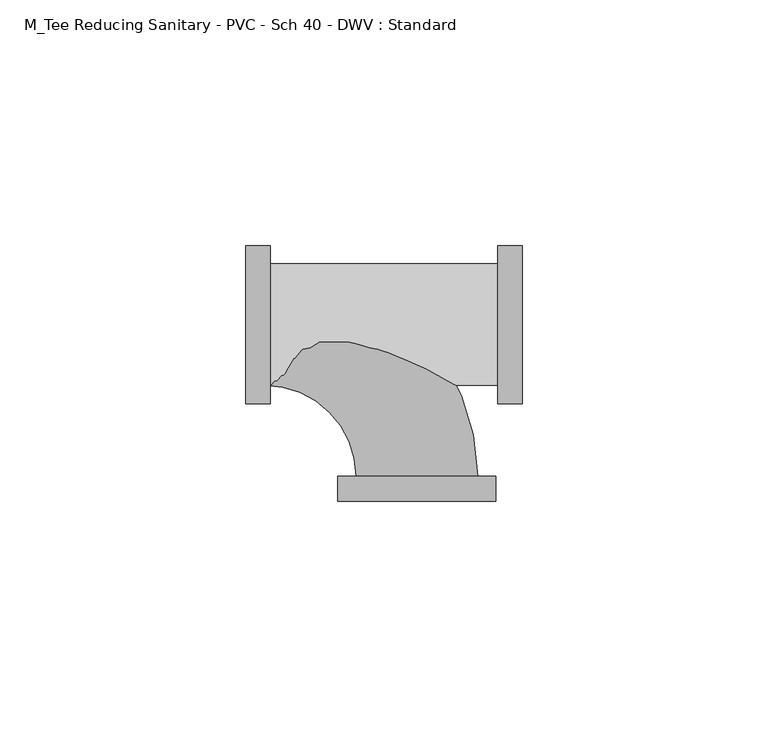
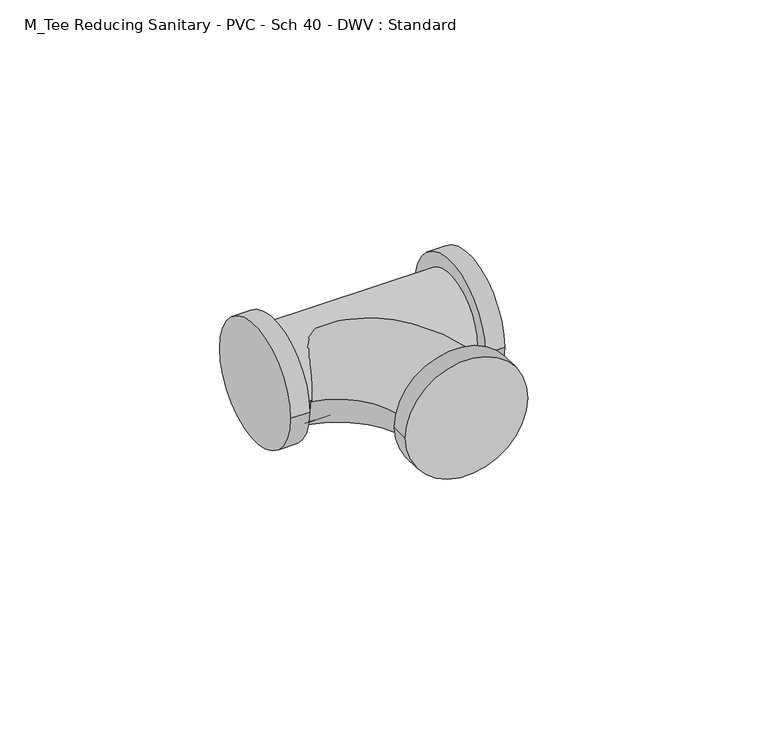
"""IFC4 building model written with IfcOpenShell, lengths in millimetres: pipe fitting geometry, M_Tee Reducing Sanitary - PVC - Sch 40 - DWV : Standard."""

from ifc_helpers import new_model, si_unit, point, frame, origin, place, context, project, spatial, circle_curve, ellipse_curve, trimmed, source, transform, mapped, element, save
from ifc_brep_helpers import plane_surface, cylinder_surface, revolved_surface, advanced_brep


def m_tee_reducing_sanitary_pvc_sch_40_dwv_standard_53539b48(model_context):
    return source(origin(), model_context, "Body", "AdvancedBrep", [
        advanced_brep(
        [(16.432225, -16.0871094, 0.0), (16.432225, 16.0871094, 0.0), (16.432225, -12.3640625, 0.0), (16.432225, 12.3640625, 0.0), (21.5025375, -16.0871094, 0.0), (21.5025375, 16.0871094, 0.0), (-29.7898062, 12.3640625, 0.0), (-29.7898062, -12.3640625, 0.0), (-34.8601187, -16.0871094, 0.0), (-34.8601187, 16.0871094, 0.0), (-29.7898062, -16.0871094, 0.0), (-29.7898062, 16.0871094, 0.0)],
        [
            (0, 1, circle_curve(frame((16.432225, 0.0, 0.0), z_axis=(-1.0, 0.0, 0.0), x_axis=(0.0, 1.0, 0.0)), 16.0871094)),
            (1, 0, circle_curve(frame((16.432225, 0.0, 0.0), z_axis=(-1.0, 0.0, 0.0), x_axis=(0.0, 1.0, 0.0)), 16.0871094)),
            (2, 3, circle_curve(frame((16.432225, 0.0, 0.0), z_axis=(1.0, 0.0, 0.0), x_axis=(0.0, 0.0, -1.0)), 12.3640625)),
            (3, 2, circle_curve(frame((16.432225, 0.0, 0.0), z_axis=(1.0, 0.0, 0.0), x_axis=(0.0, 0.0, 1.0)), 12.3640625)),
            (4, 5, circle_curve(frame((21.5025375, 0.0, 0.0), z_axis=(1.0, 0.0, 0.0), x_axis=(0.0, 1.0, 0.0)), 16.0871094)),
            (5, 4, circle_curve(frame((21.5025375, 0.0, 0.0), z_axis=(1.0, 0.0, 0.0), x_axis=(0.0, 1.0, 0.0)), 16.0871094)),
            (0, 4),
            (5, 1),
            (6, 3),
            (2, 7),
            (7, 6, circle_curve(frame((-29.7898062, 0.0, 0.0), z_axis=(1.0, 0.0, 0.0), x_axis=(0.0, 0.0, -1.0)), 12.3640625)),
            (6, 7, circle_curve(frame((-29.7898062, 0.0, 0.0), z_axis=(1.0, 0.0, 0.0), x_axis=(0.0, 0.0, 1.0)), 12.3640625)),
            (8, 9, circle_curve(frame((-34.8601187, 0.0, 0.0), z_axis=(-1.0, 0.0, 0.0), x_axis=(0.0, 1.0, 0.0)), 16.0871094)),
            (9, 8, circle_curve(frame((-34.8601187, 0.0, 0.0), z_axis=(-1.0, 0.0, 0.0), x_axis=(0.0, 1.0, 0.0)), 16.0871094)),
            (10, 11, circle_curve(frame((-29.7898062, 0.0, 0.0), z_axis=(1.0, 0.0, 0.0), x_axis=(0.0, 1.0, 0.0)), 16.0871094)),
            (11, 10, circle_curve(frame((-29.7898062, 0.0, 0.0), z_axis=(1.0, 0.0, 0.0), x_axis=(0.0, 1.0, 0.0)), 16.0871094)),
            (8, 10),
            (11, 9),
        ],
        [
            plane_surface(frame((16.432225, 0.0, 0.0), z_axis=(-1.0, 0.0, 0.0), x_axis=(0.0, 0.0, 1.0))),
            plane_surface(frame((21.5025375, 0.0, 0.0), z_axis=(1.0, 0.0, 0.0), x_axis=(0.0, 0.0, 1.0))),
            cylinder_surface(frame((16.432225, 0.0, 0.0), z_axis=(-1.0, 0.0, 0.0), x_axis=(0.0, 1.0, 0.0)), 16.0871094),
            cylinder_surface(frame((-29.7898062, 0.0, 0.0), z_axis=(1.0, 0.0, 0.0), x_axis=(0.0, 0.0, -1.0)), 12.3640625),
            cylinder_surface(frame((-29.7898062, 0.0, 0.0), z_axis=(1.0, 0.0, 0.0), x_axis=(0.0, 0.0, 1.0)), 12.3640625),
            plane_surface(frame((-34.8601187, 0.0, 0.0), z_axis=(-1.0, 0.0, 0.0), x_axis=(0.0, 0.0, 1.0))),
            plane_surface(frame((-29.7898062, 0.0, 0.0), z_axis=(1.0, 0.0, 0.0), x_axis=(0.0, 0.0, 1.0))),
            cylinder_surface(frame((-34.8601187, 0.0, 0.0), z_axis=(-1.0, 0.0, 0.0), x_axis=(0.0, 1.0, 0.0)), 16.0871094),
        ],
        [
            (0, [[1, 2], [3, 4]]),
            (1, [[5, 6]]),
            (2, [[-1, 7, -6, 8]]),
            (2, [[-2, -8, -5, -7]]),
            (3, [[9, -3, 10, 11]]),
            (4, [[-9, 12, -10, -4]]),
            (5, [[13, 14]]),
            (6, [[15, 16], [-11, -12]]),
            (7, [[-13, 17, -16, 18]]),
            (7, [[-14, -18, -15, -17]]),
        ],
    ),
        advanced_brep(
        [(-16.0871094, -30.8976563, 0.0), (16.0871094, -30.8976563, 0.0), (12.3640625, -30.8976563, 0.0), (-12.3640625, -30.8976563, 0.0), (-16.0871094, -35.9679688, 0.0), (16.0871094, -35.9679688, 0.0), (-30.8976562, -12.3640625, 0.0), (-30.8976562, 12.3640625, 0.0)],
        [
            (0, 1, circle_curve(frame((0.0, -30.8976563, 0.0), z_axis=(0.0, 1.0, 0.0), x_axis=(1.0, 0.0, 0.0)), 16.0871094)),
            (1, 0, circle_curve(frame((0.0, -30.8976563, 0.0), z_axis=(0.0, 1.0, 0.0), x_axis=(1.0, 0.0, 0.0)), 16.0871094)),
            (2, 3, circle_curve(frame((0.0, -30.8976563, 0.0), z_axis=(0.0, -1.0, 0.0), x_axis=(1.0, 0.0, 0.0)), 12.3640625)),
            (3, 2, circle_curve(frame((0.0, -30.8976563, 0.0), z_axis=(0.0, -1.0, 0.0), x_axis=(1.0, 0.0, 0.0)), 12.3640625)),
            (4, 5, circle_curve(frame((0.0, -35.9679688, 0.0), z_axis=(0.0, -1.0, 0.0), x_axis=(1.0, 0.0, 0.0)), 16.0871094)),
            (5, 4, circle_curve(frame((0.0, -35.9679688, 0.0), z_axis=(0.0, -1.0, 0.0), x_axis=(1.0, 0.0, 0.0)), 16.0871094)),
            (0, 4),
            (5, 1),
            (6, 7, circle_curve(frame((-30.8976562, 0.0, 0.0), z_axis=(-1.0, 0.0, 0.0), x_axis=(0.0, 1.0, 0.0)), 12.3640625)),
            (7, 6, circle_curve(frame((-30.8976562, 0.0, 0.0), z_axis=(-1.0, 0.0, 0.0), x_axis=(0.0, 1.0, 0.0)), 12.3640625)),
            (6, 3, circle_curve(frame((-30.8976562, -30.8976563, 0.0), z_axis=(0.0, 0.0, -1.0), x_axis=(0.0, 1.0, 0.0)), 18.5335938)),
            (2, 7, circle_curve(frame((-30.8976562, -30.8976563, 0.0), z_axis=(0.0, 0.0, 1.0), x_axis=(0.0, 1.0, 0.0)), 43.2617188)),
        ],
        [
            plane_surface(frame((0.0, -30.8976563, 0.0), z_axis=(0.0, 1.0, 0.0), x_axis=(0.0, 0.0, 1.0))),
            plane_surface(frame((0.0, -35.9679688, 0.0), z_axis=(0.0, -1.0, 0.0), x_axis=(0.0, 0.0, 1.0))),
            cylinder_surface(frame((0.0, -30.8976563, 0.0), z_axis=(0.0, 1.0, 0.0), x_axis=(1.0, 0.0, 0.0)), 16.0871094),
            plane_surface(frame((-30.8976562, 0.0, 0.0), z_axis=(-1.0, 0.0, 0.0), x_axis=(0.0, 0.0, 1.0))),
            revolved_surface(trimmed(ellipse_curve(frame((-30.8976562, 0.0, 0.0), z_axis=(-1.0, 0.0, 0.0), x_axis=(0.0, 1.0, 0.0)), 12.3640625, 12.3640625), [point((-30.8976562, -12.3640625, 0.0))], [point((-30.8976562, 12.3640625, 0.0))], True, "CARTESIAN"), (-30.8976562, -30.8976563, 0.0), (0.0, 0.0, -1.0)),
            revolved_surface(trimmed(ellipse_curve(frame((-30.8976562, 0.0, 0.0), z_axis=(-1.0, 0.0, 0.0), x_axis=(0.0, 1.0, 0.0)), 12.3640625, 12.3640625), [point((-30.8976562, 12.3640625, 0.0))], [point((-30.8976562, -12.3640625, 0.0))], True, "CARTESIAN"), (-30.8976562, -30.8976563, 0.0), (0.0, 0.0, -1.0)),
        ],
        [
            (0, [[1, 2], [3, 4]]),
            (1, [[5, 6]]),
            (2, [[-1, 7, -6, 8]]),
            (2, [[-2, -8, -5, -7]]),
            (3, [[9, 10]]),
            (4, [[-9, 11, -3, 12]]),
            (5, [[-10, -12, -4, -11]]),
        ],
    ),
    ])


if __name__ == "__main__":
    model = new_model("IFC4")
    model_context = context("Model", 3, world=origin())
    ifc_project = project(units=[si_unit("LENGTHUNIT", "METRE", prefix="MILLI")], contexts=[model_context])
    site = spatial("IfcSite", under=ifc_project)
    building = spatial("IfcBuilding", under=site)
    placement = place(None, origin())
    m_tee_reducing_sanitary_pvc_sch_40_dwv_standard_shape = m_tee_reducing_sanitary_pvc_sch_40_dwv_standard_53539b48(model_context)
    element("IfcPipeFitting", 1, ObjectType="M_Tee Reducing Sanitary - PVC - Sch 40 - DWV : Standard", at=placement, inside=building, context=model_context, shape_type="MappedRepresentation", body=[
        mapped(m_tee_reducing_sanitary_pvc_sch_40_dwv_standard_shape, transform((0.0, 0.0, 0.0), x_axis=(1.0, 0.0, 0.0), y_axis=(0.0, 1.0, 0.0), z_axis=(0.0, 0.0, 1.0))),
    ])
    save(model, "model.ifc")
